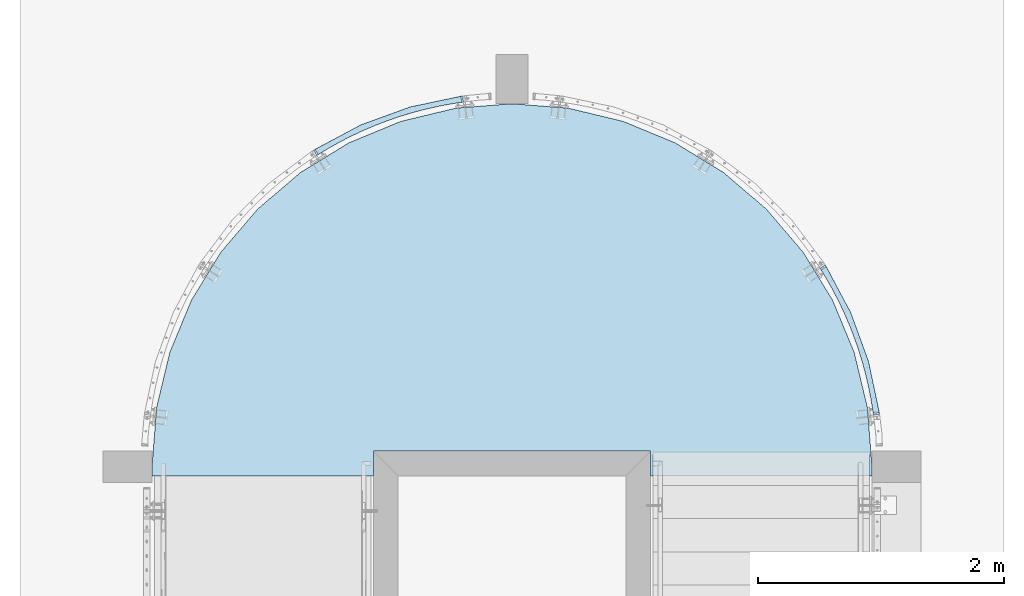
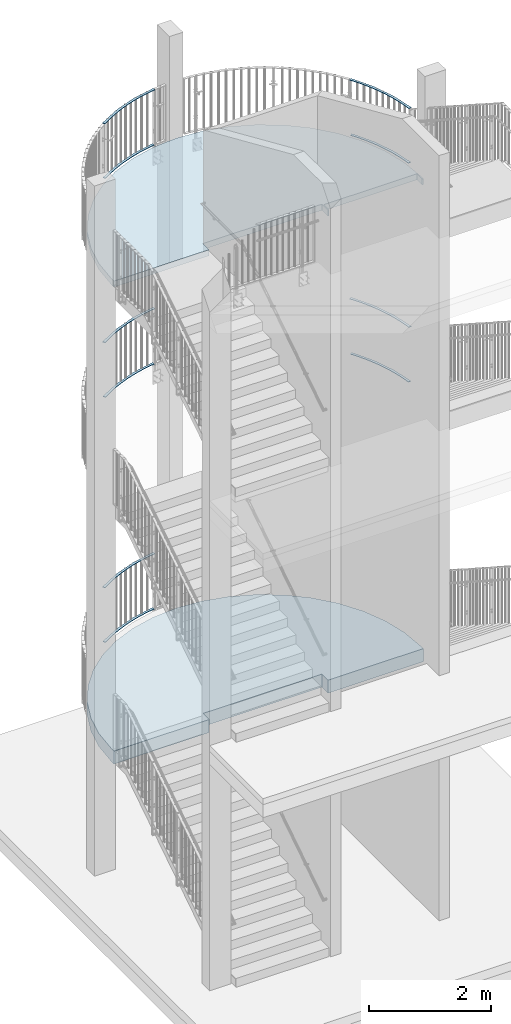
# One storey, part 105 of 296: 10 plates, 2 slabs, 27 openings.
"""IFC2X3 building model written with IfcOpenShell, lengths in millimetres."""

from ifc_helpers import new_model, entity, si_unit, converted_unit, point, frame, frame_2d, origin, origin_with_axes, origin_2d_with_axis, place, context, project, spatial, polyline, circle_curve, line_curve, trimmed, segment, composite_curve, outline, extrude, material, layer, layer_set, element, save


model = new_model("IFC2X3")

# Units and contexts
model_context = context("Model", 3, precision=1e-09, world=origin_with_axes())
ifc_project = project(units=[si_unit("LENGTHUNIT", "METRE", prefix="MILLI"), si_unit("AREAUNIT", "SQUARE_METRE"), si_unit("VOLUMEUNIT", "CUBIC_METRE"), converted_unit("PLANEANGLEUNIT", "DEGREE", entity("IfcPlaneAngleMeasure", 0.01745329), si_unit("PLANEANGLEUNIT", "RADIAN"), dimensions=[0, 0, 0, 0, 0, 0, 0])], contexts=[model_context])

# Site, building, storey
site_placement = place(None, origin_with_axes())
site = spatial("IfcSite", under=ifc_project, at=site_placement, Name="TZD-S?d | Treppenhausgel?nder", CompositionType="ELEMENT")
building_placement = place(site_placement, origin_with_axes())
building = spatial("IfcBuilding", under=site, at=building_placement, Name="Struktur 1", CompositionType="ELEMENT")
storey_placement = place(building_placement, origin_with_axes())
storey = spatial("IfcBuildingStorey", under=building, at=storey_placement, Name="Default Storey", CompositionType="ELEMENT", Elevation=0.0)

# Plate, openings
ifc_material_1 = material(Name="S235JR")
ifc_layer_1 = layer(ifc_material_1, 10.0)
ifc_layer_set_1 = layer_set([ifc_layer_1], Name="S235JR")
plate_1_placement = place(None, frame((5863.645663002, 294.444758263, 12815.0), z_axis=(0.0, 0.0, -1.0), x_axis=(-0.133033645, 0.991111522, 0.0)))
plate_1 = element("IfcPlate", 1, at=plate_1_placement, inside=storey, material=ifc_layer_set_1, Name="Girder", ObjectType="Girder", context=model_context, shape_type="SweptSolid", body=[
    extrude(outline(polyline([(0.0, 0.0), (0.0, -2965.0), (1239.452537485, -271.492545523), (1260.468823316, -226.123707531), (660.418630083, 50.027706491), (-0.126475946, 49.999997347), (0.0, 0.0)])), origin_with_axes(), (0.0, 0.0, -1.0), 10.0),
])
opening_1_placement = place(plate_1_placement, frame((0.0, -2965.0, 0.01), z_axis=(0.0, 0.0, 1.0), x_axis=(0.418027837, 0.908434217, 0.0)))
element("IfcOpeningElement", 2, at=opening_1_placement, cuts=plate_1, ObjectType="Opening", context=model_context, shape_type="SweptSolid", body=[
    extrude(outline(composite_curve([segment(trimmed(line_curve((0.0, 0.0), (1.0, 0.0), 2965.0), [point((0.0, 0.0))], [point((2965.0, 0.0))], True, "CARTESIAN"), True, "CONTINUOUS"), segment(trimmed(circle_curve(origin_2d_with_axis(), 2965.0), [point((2965.0, 0.0))], [point((2693.507454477, 1239.452537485))], True, "CARTESIAN"), True, "CONTINUOUS"), segment(trimmed(line_curve((2693.507454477, 1239.452537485), (-0.908434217, -0.418027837), 2965.0), [point((2693.507454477, 1239.452537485))], [point((0.0, 0.0))], True, "CARTESIAN"), True, "CONTINUOUS")], self_intersect=False)), origin(), (0.0, 0.0, -1.0), 10.02),
])
opening_2_placement = place(plate_1_placement, frame((660.418630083, 50.027706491, 0.01), z_axis=(0.0, 0.0, 1.0), x_axis=(-0.999999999, -4.1949e-05, 0.0)))
element("IfcOpeningElement", 3, at=opening_2_placement, cuts=plate_1, ObjectType="Opening", context=model_context, shape_type="SweptSolid", body=[
    extrude(outline(composite_curve([segment(trimmed(line_curve((0.0, 0.0), (1.0, 0.0), 660.54510661), [point((0.0, 0.0))], [point((660.54510661, 0.0))], True, "CARTESIAN"), True, "CONTINUOUS"), segment(trimmed(circle_curve(frame_2d((660.54510661, 3015.0), x_axis=(-1.0, 0.0)), 3015.0), [point((660.54510661, 0.0))], [point((-600.038608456, 276.176585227))], False, "CARTESIAN"), True, "CONTINUOUS"), segment(trimmed(line_curve((-600.038608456, 276.176585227), (0.908399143, -0.418104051), 660.54510661), [point((-600.038608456, 276.176585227))], [point((0.0, 0.0))], True, "CARTESIAN"), True, "CONTINUOUS")], self_intersect=False)), origin(), (0.0, 0.0, -1.0), 10.02),
])

plate_2_placement = place(None, frame((5437.672875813, 1474.071160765, 11725.0), z_axis=(0.0, 0.0, 1.0), x_axis=(0.530884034, -0.847444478, 0.0)))
plate_2 = element("IfcPlate", 4, at=plate_2_placement, inside=storey, material=ifc_layer_set_1, Name="-", ObjectType="-", context=model_context, shape_type="SweptSolid", body=[
    extrude(outline(polyline([(0.0, 0.0), (0.0, -2964.999999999), (1212.136152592, -259.089626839), (1232.92316853, -213.613901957), (644.462458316, 50.081129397), (-0.379437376, 49.999976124), (0.0, 0.0)])), origin_with_axes(), (0.0, 0.0, -1.0), 10.0),
])
opening_3_placement = place(plate_2_placement, frame((0.0, -2964.999999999, 0.01), z_axis=(0.0, 0.0, 1.0), x_axis=(0.408814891, 0.912617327, 0.0)))
element("IfcOpeningElement", 5, at=opening_3_placement, cuts=plate_2, ObjectType="Opening", context=model_context, shape_type="SweptSolid", body=[
    extrude(outline(composite_curve([segment(trimmed(line_curve((0.0, 0.0), (1.0, 0.0), 2964.999999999), [point((0.0, 0.0))], [point((2964.999999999, 0.0))], True, "CARTESIAN"), True, "CONTINUOUS"), segment(trimmed(circle_curve(origin_2d_with_axis(), 2964.999999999), [point((2964.999999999, 0.0))], [point((2705.910373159, 1212.136152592))], True, "CARTESIAN"), True, "CONTINUOUS"), segment(trimmed(line_curve((2705.910373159, 1212.136152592), (-0.912617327, -0.408814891), 2964.999999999), [point((2705.910373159, 1212.136152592))], [point((0.0, 0.0))], True, "CARTESIAN"), True, "CONTINUOUS")], self_intersect=False)), origin(), (0.0, 0.0, -1.0), 10.02),
])
opening_4_placement = place(plate_2_placement, frame((644.462458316, 50.081129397, 0.01), z_axis=(0.0, 0.0, 1.0), x_axis=(-0.999999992, -0.00012585, 0.0)))
element("IfcOpeningElement", 6, at=opening_4_placement, cuts=plate_2, ObjectType="Opening", context=model_context, shape_type="SweptSolid", body=[
    extrude(outline(composite_curve([segment(trimmed(line_curve((0.0, 0.0), (1.0, 0.0), 644.841900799), [point((0.0, 0.0))], [point((644.841900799, 0.0))], True, "CARTESIAN"), True, "CONTINUOUS"), segment(trimmed(circle_curve(frame_2d((644.841900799, 3015.000000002), x_axis=(-1.0, 0.0)), 3015.000000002), [point((644.841900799, 0.0))], [point((-588.427519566, 263.769086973))], False, "CARTESIAN"), True, "CONTINUOUS"), segment(trimmed(line_curve((-588.427519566, 263.769086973), (0.912514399, -0.409044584), 644.841900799), [point((-588.427519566, 263.769086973))], [point((0.0, 0.0))], True, "CARTESIAN"), True, "CONTINUOUS")], self_intersect=False)), origin(), (0.0, 0.0, -1.0), 10.02),
])

plate_3_placement = place(None, frame((2530.555241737, 2838.645663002, 8440.0), z_axis=(0.0, 0.0, 1.0), x_axis=(-0.130526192, 0.991444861, 0.0)))
plate_3 = element("IfcPlate", 7, at=plate_3_placement, inside=storey, material=ifc_layer_set_1, Name="Girder", ObjectType="Girder", context=model_context, shape_type="SweptSolid", body=[
    extrude(outline(polyline([(0.0, 0.0), (50.000157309, 0.0), (48.357010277, 660.543062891), (-229.311353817, 1259.892808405), (-274.626885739, 1238.761828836), (-2964.990514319, -7.5), (0.0, 0.0)])), origin_with_axes(), (0.0, 0.0, 1.0), 10.0),
])
opening_5_placement = place(plate_3_placement, frame((0.0, 0.0, -0.01), z_axis=(0.0, 0.0, 1.0), x_axis=(1.0, 0.0, 0.0)))
element("IfcOpeningElement", 8, at=opening_5_placement, cuts=plate_3, ObjectType="Opening", context=model_context, shape_type="SweptSolid", body=[
    extrude(outline(composite_curve([segment(trimmed(line_curve((48.357010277, 660.543062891), (-0.420362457, 0.907356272), 660.54510661), [point((48.357010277, 660.543062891))], [point((-229.311353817, 1259.892808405))], True, "CARTESIAN"), True, "CONTINUOUS"), segment(trimmed(circle_curve(frame_2d((-2964.990514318, -7.5), x_axis=(-1.0, 0.0)), 3015.0), [point((-229.311353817, 1259.892808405))], [point((50.000157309, 0.0))], False, "CARTESIAN"), True, "CONTINUOUS"), segment(trimmed(line_curve((50.000157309, 0.0), (-0.002487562, 0.999996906), 660.54510661), [point((50.000157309, 0.0))], [point((48.357010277, 660.543062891))], True, "CARTESIAN"), True, "CONTINUOUS")], self_intersect=False)), origin(), (0.0, 0.0, 1.0), 10.02),
])
opening_6_placement = place(plate_3_placement, frame((0.0, 0.0, -0.01), z_axis=(0.0, 0.0, 1.0), x_axis=(1.0, 0.0, 0.0)))
element("IfcOpeningElement", 9, at=opening_6_placement, cuts=plate_3, ObjectType="Opening", context=model_context, shape_type="SweptSolid", body=[
    extrude(outline(composite_curve([segment(trimmed(line_curve((-2964.990514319, -7.5), (0.999996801, 0.002529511), 2965.0), [point((-2964.990514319, -7.5))], [point((0.0, 0.0))], True, "CARTESIAN"), True, "CONTINUOUS"), segment(trimmed(circle_curve(frame_2d((-2964.990514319, -7.5), x_axis=(1.0, 0.0)), 2965.0), [point((0.0, 0.0))], [point((-274.626885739, 1238.761828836))], True, "CARTESIAN"), True, "CONTINUOUS"), segment(trimmed(line_curve((-274.626885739, 1238.761828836), (-0.907373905, -0.420324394), 2965.0), [point((-274.626885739, 1238.761828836))], [point((-2964.990514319, -7.5))], True, "CARTESIAN"), True, "CONTINUOUS")], self_intersect=False)), origin(), (0.0, 0.0, 1.0), 10.02),
])

plate_4_placement = place(None, frame((2515.693473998, 2836.612532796, 7350.0), z_axis=(0.0, 0.0, -1.0), x_axis=(-0.990425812, -0.138046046, 0.0)))
plate_4 = element("IfcPlate", 10, at=plate_4_placement, inside=storey, material=ifc_layer_set_1, Name="-", ObjectType="-", context=model_context, shape_type="SweptSolid", body=[
    extrude(outline(polyline([(0.0, 0.0), (0.0, -2965.0), (1212.136152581, -259.089626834), (1232.923168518, -213.613901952), (644.462458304, 50.0811294), (-0.379437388, 49.999976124), (0.0, 0.0)])), origin_with_axes(), (0.0, 0.0, 1.0), 10.0),
])
opening_7_placement = place(plate_4_placement, frame((0.0, 0.0, -0.01), z_axis=(0.0, 0.0, 1.0), x_axis=(1.0, 0.0, 0.0)))
element("IfcOpeningElement", 11, at=opening_7_placement, cuts=plate_4, ObjectType="Opening", context=model_context, shape_type="SweptSolid", body=[
    extrude(outline(composite_curve([segment(trimmed(line_curve((0.0, -2965.0), (0.408814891, 0.912617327), 2965.0), [point((0.0, -2965.0))], [point((1212.136152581, -259.089626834))], True, "CARTESIAN"), True, "CONTINUOUS"), segment(trimmed(circle_curve(frame_2d((0.0, -2965.0), x_axis=(1.0, 0.0)), 2965.0), [point((1212.136152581, -259.089626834))], [point((0.0, 0.0))], True, "CARTESIAN"), True, "CONTINUOUS"), segment(trimmed(line_curve((0.0, 0.0), (0.0, -1.0), 2965.0), [point((0.0, 0.0))], [point((0.0, -2965.0))], True, "CARTESIAN"), True, "CONTINUOUS")], self_intersect=False)), origin(), (0.0, 0.0, 1.0), 10.02),
])
opening_8_placement = place(plate_4_placement, frame((0.0, 0.0, -0.01), z_axis=(0.0, 0.0, 1.0), x_axis=(1.0, 0.0, 0.0)))
element("IfcOpeningElement", 12, at=opening_8_placement, cuts=plate_4, ObjectType="Opening", context=model_context, shape_type="SweptSolid", body=[
    extrude(outline(composite_curve([segment(trimmed(line_curve((644.462458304, 50.0811294), (-0.999999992, -0.00012585), 644.841900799), [point((644.462458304, 50.0811294))], [point((-0.379437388, 49.999976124))], True, "CARTESIAN"), True, "CONTINUOUS"), segment(trimmed(circle_curve(frame_2d((0.0, -2965.0), x_axis=(-1.0, 0.0)), 3015.0), [point((-0.379437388, 49.999976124))], [point((1232.923168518, -213.613901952))], False, "CARTESIAN"), True, "CONTINUOUS"), segment(trimmed(line_curve((1232.923168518, -213.613901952), (-0.91256587, 0.408929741), 644.841900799), [point((1232.923168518, -213.613901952))], [point((644.462458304, 50.0811294))], True, "CARTESIAN"), True, "CONTINUOUS")], self_intersect=False)), origin(), (0.0, 0.0, 1.0), 10.02),
])

plate_5_placement = place(None, frame((5437.672875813, 1474.071160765, 7350.0), z_axis=(0.0, 0.0, 1.0), x_axis=(0.530884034, -0.847444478, 0.0)))
plate_5 = element("IfcPlate", 13, at=plate_5_placement, inside=storey, material=ifc_layer_set_1, Name="-", ObjectType="-", context=model_context, shape_type="SweptSolid", body=[
    extrude(outline(polyline([(0.0, 0.0), (0.0, -2964.999999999), (1212.136152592, -259.089626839), (1232.92316853, -213.613901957), (644.462458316, 50.081129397), (-0.379437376, 49.999976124), (0.0, 0.0)])), origin_with_axes(), (0.0, 0.0, -1.0), 10.0),
])
opening_9_placement = place(plate_5_placement, frame((0.0, -2964.999999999, 0.01), z_axis=(0.0, 0.0, 1.0), x_axis=(0.408814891, 0.912617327, 0.0)))
element("IfcOpeningElement", 14, at=opening_9_placement, cuts=plate_5, ObjectType="Opening", context=model_context, shape_type="SweptSolid", body=[
    extrude(outline(composite_curve([segment(trimmed(line_curve((0.0, 0.0), (1.0, 0.0), 2964.999999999), [point((0.0, 0.0))], [point((2964.999999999, 0.0))], True, "CARTESIAN"), True, "CONTINUOUS"), segment(trimmed(circle_curve(origin_2d_with_axis(), 2964.999999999), [point((2964.999999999, 0.0))], [point((2705.910373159, 1212.136152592))], True, "CARTESIAN"), True, "CONTINUOUS"), segment(trimmed(line_curve((2705.910373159, 1212.136152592), (-0.912617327, -0.408814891), 2964.999999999), [point((2705.910373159, 1212.136152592))], [point((0.0, 0.0))], True, "CARTESIAN"), True, "CONTINUOUS")], self_intersect=False)), origin(), (0.0, 0.0, -1.0), 10.02),
])
opening_10_placement = place(plate_5_placement, frame((644.462458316, 50.081129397, 0.01), z_axis=(0.0, 0.0, 1.0), x_axis=(-0.999999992, -0.00012585, 0.0)))
element("IfcOpeningElement", 15, at=opening_10_placement, cuts=plate_5, ObjectType="Opening", context=model_context, shape_type="SweptSolid", body=[
    extrude(outline(composite_curve([segment(trimmed(line_curve((0.0, 0.0), (1.0, 0.0), 644.841900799), [point((0.0, 0.0))], [point((644.841900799, 0.0))], True, "CARTESIAN"), True, "CONTINUOUS"), segment(trimmed(circle_curve(frame_2d((644.841900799, 3015.000000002), x_axis=(-1.0, 0.0)), 3015.000000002), [point((644.841900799, 0.0))], [point((-588.427519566, 263.769086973))], False, "CARTESIAN"), True, "CONTINUOUS"), segment(trimmed(line_curve((-588.427519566, 263.769086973), (0.912514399, -0.409044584), 644.841900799), [point((-588.427519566, 263.769086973))], [point((0.0, 0.0))], True, "CARTESIAN"), True, "CONTINUOUS")], self_intersect=False)), origin(), (0.0, 0.0, -1.0), 10.02),
])

plate_6_placement = place(None, frame((5863.645663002, 294.444758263, 8440.0), z_axis=(0.0, 0.0, -1.0), x_axis=(-0.133033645, 0.991111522, 0.0)))
plate_6 = element("IfcPlate", 16, at=plate_6_placement, inside=storey, material=ifc_layer_set_1, Name="Girder", ObjectType="Girder", context=model_context, shape_type="SweptSolid", body=[
    extrude(outline(polyline([(0.0, 0.0), (0.0, -2965.0), (1239.452537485, -271.492545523), (1260.468823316, -226.123707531), (660.418630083, 50.027706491), (-0.126475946, 49.999997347), (0.0, 0.0)])), origin_with_axes(), (0.0, 0.0, -1.0), 10.0),
])
opening_11_placement = place(plate_6_placement, frame((0.0, -2965.0, 0.01), z_axis=(0.0, 0.0, 1.0), x_axis=(0.418027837, 0.908434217, 0.0)))
element("IfcOpeningElement", 17, at=opening_11_placement, cuts=plate_6, ObjectType="Opening", context=model_context, shape_type="SweptSolid", body=[
    extrude(outline(composite_curve([segment(trimmed(line_curve((0.0, 0.0), (1.0, 0.0), 2965.0), [point((0.0, 0.0))], [point((2965.0, 0.0))], True, "CARTESIAN"), True, "CONTINUOUS"), segment(trimmed(circle_curve(origin_2d_with_axis(), 2965.0), [point((2965.0, 0.0))], [point((2693.507454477, 1239.452537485))], True, "CARTESIAN"), True, "CONTINUOUS"), segment(trimmed(line_curve((2693.507454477, 1239.452537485), (-0.908434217, -0.418027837), 2965.0), [point((2693.507454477, 1239.452537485))], [point((0.0, 0.0))], True, "CARTESIAN"), True, "CONTINUOUS")], self_intersect=False)), origin(), (0.0, 0.0, -1.0), 10.02),
])
opening_12_placement = place(plate_6_placement, frame((660.418630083, 50.027706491, 0.01), z_axis=(0.0, 0.0, 1.0), x_axis=(-0.999999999, -4.1949e-05, 0.0)))
element("IfcOpeningElement", 18, at=opening_12_placement, cuts=plate_6, ObjectType="Opening", context=model_context, shape_type="SweptSolid", body=[
    extrude(outline(composite_curve([segment(trimmed(line_curve((0.0, 0.0), (1.0, 0.0), 660.54510661), [point((0.0, 0.0))], [point((660.54510661, 0.0))], True, "CARTESIAN"), True, "CONTINUOUS"), segment(trimmed(circle_curve(frame_2d((660.54510661, 3015.0), x_axis=(-1.0, 0.0)), 3015.0), [point((660.54510661, 0.0))], [point((-600.038608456, 276.176585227))], False, "CARTESIAN"), True, "CONTINUOUS"), segment(trimmed(line_curve((-600.038608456, 276.176585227), (0.908399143, -0.418104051), 660.54510661), [point((-600.038608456, 276.176585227))], [point((0.0, 0.0))], True, "CARTESIAN"), True, "CONTINUOUS")], self_intersect=False)), origin(), (0.0, 0.0, -1.0), 10.02),
])

plate_7_placement = place(None, frame((2530.555241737, 2838.645663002, 3540.0), z_axis=(0.0, 0.0, 1.0), x_axis=(-0.130526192, 0.991444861, 0.0)))
plate_7 = element("IfcPlate", 19, at=plate_7_placement, inside=storey, material=ifc_layer_set_1, Name="Girder", ObjectType="Girder", context=model_context, shape_type="SweptSolid", body=[
    extrude(outline(polyline([(0.0, 0.0), (50.000157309, 0.0), (48.357010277, 660.543062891), (-229.311353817, 1259.892808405), (-274.626885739, 1238.761828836), (-2964.990514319, -7.5), (0.0, 0.0)])), origin_with_axes(), (0.0, 0.0, 1.0), 10.0),
])
opening_13_placement = place(plate_7_placement, frame((0.0, 0.0, -0.01), z_axis=(0.0, 0.0, 1.0), x_axis=(1.0, 0.0, 0.0)))
element("IfcOpeningElement", 20, at=opening_13_placement, cuts=plate_7, ObjectType="Opening", context=model_context, shape_type="SweptSolid", body=[
    extrude(outline(composite_curve([segment(trimmed(line_curve((48.357010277, 660.543062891), (-0.420362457, 0.907356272), 660.54510661), [point((48.357010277, 660.543062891))], [point((-229.311353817, 1259.892808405))], True, "CARTESIAN"), True, "CONTINUOUS"), segment(trimmed(circle_curve(frame_2d((-2964.990514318, -7.5), x_axis=(-1.0, 0.0)), 3015.0), [point((-229.311353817, 1259.892808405))], [point((50.000157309, 0.0))], False, "CARTESIAN"), True, "CONTINUOUS"), segment(trimmed(line_curve((50.000157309, 0.0), (-0.002487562, 0.999996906), 660.54510661), [point((50.000157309, 0.0))], [point((48.357010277, 660.543062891))], True, "CARTESIAN"), True, "CONTINUOUS")], self_intersect=False)), origin(), (0.0, 0.0, 1.0), 10.02),
])
opening_14_placement = place(plate_7_placement, frame((0.0, 0.0, -0.01), z_axis=(0.0, 0.0, 1.0), x_axis=(1.0, 0.0, 0.0)))
element("IfcOpeningElement", 21, at=opening_14_placement, cuts=plate_7, ObjectType="Opening", context=model_context, shape_type="SweptSolid", body=[
    extrude(outline(composite_curve([segment(trimmed(line_curve((-2964.990514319, -7.5), (0.999996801, 0.002529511), 2965.0), [point((-2964.990514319, -7.5))], [point((0.0, 0.0))], True, "CARTESIAN"), True, "CONTINUOUS"), segment(trimmed(circle_curve(frame_2d((-2964.990514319, -7.5), x_axis=(1.0, 0.0)), 2965.0), [point((0.0, 0.0))], [point((-274.626885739, 1238.761828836))], True, "CARTESIAN"), True, "CONTINUOUS"), segment(trimmed(line_curve((-274.626885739, 1238.761828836), (-0.907373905, -0.420324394), 2965.0), [point((-274.626885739, 1238.761828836))], [point((-2964.990514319, -7.5))], True, "CARTESIAN"), True, "CONTINUOUS")], self_intersect=False)), origin(), (0.0, 0.0, 1.0), 10.02),
])

plate_8_placement = place(None, frame((2515.693473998, 2836.612532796, 2450.0), z_axis=(0.0, 0.0, -1.0), x_axis=(-0.990425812, -0.138046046, 0.0)))
plate_8 = element("IfcPlate", 22, at=plate_8_placement, inside=storey, material=ifc_layer_set_1, Name="-", ObjectType="-", context=model_context, shape_type="SweptSolid", body=[
    extrude(outline(polyline([(0.0, 0.0), (0.0, -2965.0), (1212.136152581, -259.089626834), (1232.923168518, -213.613901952), (644.462458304, 50.0811294), (-0.379437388, 49.999976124), (0.0, 0.0)])), origin_with_axes(), (0.0, 0.0, 1.0), 10.0),
])
opening_15_placement = place(plate_8_placement, frame((0.0, 0.0, -0.01), z_axis=(0.0, 0.0, 1.0), x_axis=(1.0, 0.0, 0.0)))
element("IfcOpeningElement", 23, at=opening_15_placement, cuts=plate_8, ObjectType="Opening", context=model_context, shape_type="SweptSolid", body=[
    extrude(outline(composite_curve([segment(trimmed(line_curve((0.0, -2965.0), (0.408814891, 0.912617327), 2965.0), [point((0.0, -2965.0))], [point((1212.136152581, -259.089626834))], True, "CARTESIAN"), True, "CONTINUOUS"), segment(trimmed(circle_curve(frame_2d((0.0, -2965.0), x_axis=(1.0, 0.0)), 2965.0), [point((1212.136152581, -259.089626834))], [point((0.0, 0.0))], True, "CARTESIAN"), True, "CONTINUOUS"), segment(trimmed(line_curve((0.0, 0.0), (0.0, -1.0), 2965.0), [point((0.0, 0.0))], [point((0.0, -2965.0))], True, "CARTESIAN"), True, "CONTINUOUS")], self_intersect=False)), origin(), (0.0, 0.0, 1.0), 10.02),
])
opening_16_placement = place(plate_8_placement, frame((0.0, 0.0, -0.01), z_axis=(0.0, 0.0, 1.0), x_axis=(1.0, 0.0, 0.0)))
element("IfcOpeningElement", 24, at=opening_16_placement, cuts=plate_8, ObjectType="Opening", context=model_context, shape_type="SweptSolid", body=[
    extrude(outline(composite_curve([segment(trimmed(line_curve((644.462458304, 50.0811294), (-0.999999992, -0.00012585), 644.841900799), [point((644.462458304, 50.0811294))], [point((-0.379437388, 49.999976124))], True, "CARTESIAN"), True, "CONTINUOUS"), segment(trimmed(circle_curve(frame_2d((0.0, -2965.0), x_axis=(-1.0, 0.0)), 3015.0), [point((-0.379437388, 49.999976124))], [point((1232.923168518, -213.613901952))], False, "CARTESIAN"), True, "CONTINUOUS"), segment(trimmed(line_curve((1232.923168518, -213.613901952), (-0.91256587, 0.408929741), 644.841900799), [point((1232.923168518, -213.613901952))], [point((644.462458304, 50.0811294))], True, "CARTESIAN"), True, "CONTINUOUS")], self_intersect=False)), origin(), (0.0, 0.0, 1.0), 10.02),
])

plate_9_placement = place(None, frame((2515.693473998, 2836.612532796, 11725.0), z_axis=(0.0, 0.0, -1.0), x_axis=(-0.990425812, -0.138046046, 0.0)))
plate_9 = element("IfcPlate", 25, at=plate_9_placement, inside=storey, material=ifc_layer_set_1, Name="-", ObjectType="-", context=model_context, shape_type="SweptSolid", body=[
    extrude(outline(polyline([(0.0, 0.0), (0.0, -2965.0), (1212.136152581, -259.089626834), (1232.923168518, -213.613901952), (644.462458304, 50.0811294), (-0.379437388, 49.999976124), (0.0, 0.0)])), origin_with_axes(), (0.0, 0.0, 1.0), 10.0),
])
opening_17_placement = place(plate_9_placement, frame((0.0, 0.0, -0.01), z_axis=(0.0, 0.0, 1.0), x_axis=(1.0, 0.0, 0.0)))
element("IfcOpeningElement", 26, at=opening_17_placement, cuts=plate_9, ObjectType="Opening", context=model_context, shape_type="SweptSolid", body=[
    extrude(outline(composite_curve([segment(trimmed(line_curve((0.0, -2965.0), (0.408814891, 0.912617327), 2965.0), [point((0.0, -2965.0))], [point((1212.136152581, -259.089626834))], True, "CARTESIAN"), True, "CONTINUOUS"), segment(trimmed(circle_curve(frame_2d((0.0, -2965.0), x_axis=(1.0, 0.0)), 2965.0), [point((1212.136152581, -259.089626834))], [point((0.0, 0.0))], True, "CARTESIAN"), True, "CONTINUOUS"), segment(trimmed(line_curve((0.0, 0.0), (0.0, -1.0), 2965.0), [point((0.0, 0.0))], [point((0.0, -2965.0))], True, "CARTESIAN"), True, "CONTINUOUS")], self_intersect=False)), origin(), (0.0, 0.0, 1.0), 10.02),
])
opening_18_placement = place(plate_9_placement, frame((0.0, 0.0, -0.01), z_axis=(0.0, 0.0, 1.0), x_axis=(1.0, 0.0, 0.0)))
element("IfcOpeningElement", 27, at=opening_18_placement, cuts=plate_9, ObjectType="Opening", context=model_context, shape_type="SweptSolid", body=[
    extrude(outline(composite_curve([segment(trimmed(line_curve((644.462458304, 50.0811294), (-0.999999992, -0.00012585), 644.841900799), [point((644.462458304, 50.0811294))], [point((-0.379437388, 49.999976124))], True, "CARTESIAN"), True, "CONTINUOUS"), segment(trimmed(circle_curve(frame_2d((0.0, -2965.0), x_axis=(-1.0, 0.0)), 3015.0), [point((-0.379437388, 49.999976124))], [point((1232.923168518, -213.613901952))], False, "CARTESIAN"), True, "CONTINUOUS"), segment(trimmed(line_curve((1232.923168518, -213.613901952), (-0.91256587, 0.408929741), 644.841900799), [point((1232.923168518, -213.613901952))], [point((644.462458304, 50.0811294))], True, "CARTESIAN"), True, "CONTINUOUS")], self_intersect=False)), origin(), (0.0, 0.0, 1.0), 10.02),
])

plate_10_placement = place(None, frame((2530.555241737, 2838.645663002, 12815.0), z_axis=(0.0, 0.0, 1.0), x_axis=(-0.130526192, 0.991444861, 0.0)))
plate_10 = element("IfcPlate", 28, at=plate_10_placement, inside=storey, material=ifc_layer_set_1, Name="Girder", ObjectType="Girder", context=model_context, shape_type="SweptSolid", body=[
    extrude(outline(polyline([(0.0, 0.0), (50.000157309, 0.0), (48.357010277, 660.543062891), (-229.311353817, 1259.892808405), (-274.626885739, 1238.761828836), (-2964.990514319, -7.5), (0.0, 0.0)])), origin_with_axes(), (0.0, 0.0, 1.0), 10.0),
])
opening_19_placement = place(plate_10_placement, frame((0.0, 0.0, -0.01), z_axis=(0.0, 0.0, 1.0), x_axis=(1.0, 0.0, 0.0)))
element("IfcOpeningElement", 29, at=opening_19_placement, cuts=plate_10, ObjectType="Opening", context=model_context, shape_type="SweptSolid", body=[
    extrude(outline(composite_curve([segment(trimmed(line_curve((48.357010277, 660.543062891), (-0.420362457, 0.907356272), 660.54510661), [point((48.357010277, 660.543062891))], [point((-229.311353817, 1259.892808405))], True, "CARTESIAN"), True, "CONTINUOUS"), segment(trimmed(circle_curve(frame_2d((-2964.990514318, -7.5), x_axis=(-1.0, 0.0)), 3015.0), [point((-229.311353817, 1259.892808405))], [point((50.000157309, 0.0))], False, "CARTESIAN"), True, "CONTINUOUS"), segment(trimmed(line_curve((50.000157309, 0.0), (-0.002487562, 0.999996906), 660.54510661), [point((50.000157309, 0.0))], [point((48.357010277, 660.543062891))], True, "CARTESIAN"), True, "CONTINUOUS")], self_intersect=False)), origin(), (0.0, 0.0, 1.0), 10.02),
])
opening_20_placement = place(plate_10_placement, frame((0.0, 0.0, -0.01), z_axis=(0.0, 0.0, 1.0), x_axis=(1.0, 0.0, 0.0)))
element("IfcOpeningElement", 30, at=opening_20_placement, cuts=plate_10, ObjectType="Opening", context=model_context, shape_type="SweptSolid", body=[
    extrude(outline(composite_curve([segment(trimmed(line_curve((-2964.990514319, -7.5), (0.999996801, 0.002529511), 2965.0), [point((-2964.990514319, -7.5))], [point((0.0, 0.0))], True, "CARTESIAN"), True, "CONTINUOUS"), segment(trimmed(circle_curve(frame_2d((-2964.990514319, -7.5), x_axis=(1.0, 0.0)), 2965.0), [point((0.0, 0.0))], [point((-274.626885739, 1238.761828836))], True, "CARTESIAN"), True, "CONTINUOUS"), segment(trimmed(line_curve((-274.626885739, 1238.761828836), (-0.907373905, -0.420324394), 2965.0), [point((-274.626885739, 1238.761828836))], [point((-2964.990514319, -7.5))], True, "CARTESIAN"), True, "CONTINUOUS")], self_intersect=False)), origin(), (0.0, 0.0, 1.0), 10.02),
])

# Slab, openings
ifc_material_2 = material(Name="C25/30")
ifc_layer_2 = layer(ifc_material_2, 120.0)
ifc_layer_set_2 = layer_set([ifc_layer_2], Name="C25/30")
slab_1_placement = place(None, frame((2925.0, 1312.5, 11605.0), z_axis=(0.0, 0.0, 1.0), x_axis=(0.0, -1.0, 0.0)))
slab_1 = element("IfcSlab", 31, at=slab_1_placement, inside=storey, material=ifc_layer_set_2, Name="-", ObjectType="-", context=model_context, shape_type="SweptSolid", body=[
    extrude(outline(polyline([(-1512.5, -2925.0), (1512.5, -2925.0), (1512.5, 2925.0), (-1512.5, 2925.0), (-1512.5, -2925.0)])), origin_with_axes(), (0.0, 0.0, 1.0), 120.0),
])
opening_21_placement = place(slab_1_placement, frame((0.0, 1462.5, -0.01), z_axis=(0.0, 0.0, 1.0), x_axis=(1.0, 0.0, 0.0)))
element("IfcOpeningElement", 32, at=opening_21_placement, cuts=slab_1, ObjectType="Opening", context=model_context, shape_type="SweptSolid", body=[
    extrude(outline(composite_curve([segment(trimmed(line_curve((-1512.5, -4387.5), (1.0, 0.0), 2925.000000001), [point((-1512.5, -4387.5))], [point((1412.500000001, -4387.5))], True, "CARTESIAN"), True, "CONTINUOUS"), segment(trimmed(circle_curve(frame_2d((1412.500000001, -1462.499999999), x_axis=(-1.0, 0.0)), 2925.000000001), [point((1412.500000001, -4387.5))], [point((-1512.5, -1462.499999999))], False, "CARTESIAN"), True, "CONTINUOUS"), segment(trimmed(line_curve((-1512.5, -1462.499999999), (0.0, -1.0), 2925.000000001), [point((-1512.5, -1462.499999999))], [point((-1512.5, -4387.5))], True, "CARTESIAN"), True, "CONTINUOUS")], self_intersect=False)), origin(), (0.0, 0.0, 1.0), 120.02),
])
opening_22_placement = place(slab_1_placement, frame((0.0, 1462.5, -0.01), z_axis=(0.0, 0.0, 1.0), x_axis=(1.0, 0.0, 0.0)))
element("IfcOpeningElement", 33, at=opening_22_placement, cuts=slab_1, ObjectType="Opening", context=model_context, shape_type="SweptSolid", body=[
    extrude(outline(composite_curve([segment(trimmed(line_curve((-1512.5, 1462.5), (0.0, -1.0), 2925.000000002), [point((-1512.5, 1462.5))], [point((-1512.5, -1462.500000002))], True, "CARTESIAN"), True, "CONTINUOUS"), segment(trimmed(circle_curve(frame_2d((1412.500000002, -1462.500000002), x_axis=(-1.0, 0.0)), 2925.000000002), [point((-1512.5, -1462.500000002))], [point((1412.500000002, 1462.5))], False, "CARTESIAN"), True, "CONTINUOUS"), segment(trimmed(line_curve((1412.500000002, 1462.5), (-1.0, 0.0), 2925.000000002), [point((1412.500000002, 1462.5))], [point((-1512.5, 1462.5))], True, "CARTESIAN"), True, "CONTINUOUS")], self_intersect=False)), origin(), (0.0, 0.0, 1.0), 120.02),
])
opening_23_placement = place(slab_1_placement, frame((0.0, 0.0, -0.1), z_axis=(0.0, 0.0, 1.0), x_axis=(1.0, 0.0, 0.0)))
element("IfcOpeningElement", 34, at=opening_23_placement, cuts=slab_1, ObjectType="Opening", context=model_context, shape_type="SweptSolid", body=[
    extrude(outline(polyline([(1312.499, -1125.001), (1748.295882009, -1125.001), (1748.295882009, 1125.001), (1312.499, 1125.001), (1312.499, -1125.001)])), origin(), (0.0, 0.0, 1.0), 120.2),
])
opening_24_placement = place(slab_1_placement, frame((0.0, 0.0, -0.1), z_axis=(0.0, 0.0, 1.0), x_axis=(1.0, 0.0, 0.0)))
element("IfcOpeningElement", 35, at=opening_24_placement, cuts=slab_1, ObjectType="Opening", context=model_context, shape_type="SweptSolid", body=[
    extrude(outline(polyline([(1339.557159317, 1144.998), (2093.095013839, 1144.998), (2093.095013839, 2905.0), (1339.557159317, 2905.0), (1339.557159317, 1144.998)])), origin(), (0.0, 0.0, 1.0), 120.2),
])

ifc_layer_3 = layer(ifc_material_2, 260.0)
ifc_layer_set_3 = layer_set([ifc_layer_3], Name="C25/30")
slab_2_placement = place(None, frame((2925.0, 1312.5, 2070.0), z_axis=(0.0, 0.0, 1.0), x_axis=(0.0, -1.0, 0.0)))
slab_2 = element("IfcSlab", 36, at=slab_2_placement, inside=storey, material=ifc_layer_set_3, Name="-", ObjectType="-", context=model_context, shape_type="SweptSolid", body=[
    extrude(outline(polyline([(-1512.5, -2925.0), (1512.5, -2925.0), (1512.5, 2925.0), (-1512.5, 2925.0), (-1512.5, -2925.0)])), origin_with_axes(), (0.0, 0.0, 1.0), 260.0),
])
opening_25_placement = place(slab_2_placement, frame((0.0, 1462.5, -0.01), z_axis=(0.0, 0.0, 1.0), x_axis=(1.0, 0.0, 0.0)))
element("IfcOpeningElement", 37, at=opening_25_placement, cuts=slab_2, ObjectType="Opening", context=model_context, shape_type="SweptSolid", body=[
    extrude(outline(composite_curve([segment(trimmed(line_curve((-1512.5, -4387.5), (1.0, 0.0), 2925.000000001), [point((-1512.5, -4387.5))], [point((1412.500000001, -4387.5))], True, "CARTESIAN"), True, "CONTINUOUS"), segment(trimmed(circle_curve(frame_2d((1412.500000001, -1462.499999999), x_axis=(-1.0, 0.0)), 2925.000000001), [point((1412.500000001, -4387.5))], [point((-1512.5, -1462.499999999))], False, "CARTESIAN"), True, "CONTINUOUS"), segment(trimmed(line_curve((-1512.5, -1462.499999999), (0.0, -1.0), 2925.000000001), [point((-1512.5, -1462.499999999))], [point((-1512.5, -4387.5))], True, "CARTESIAN"), True, "CONTINUOUS")], self_intersect=False)), origin(), (0.0, 0.0, 1.0), 260.02),
])
opening_26_placement = place(slab_2_placement, frame((0.0, 1462.5, -0.01), z_axis=(0.0, 0.0, 1.0), x_axis=(1.0, 0.0, 0.0)))
element("IfcOpeningElement", 38, at=opening_26_placement, cuts=slab_2, ObjectType="Opening", context=model_context, shape_type="SweptSolid", body=[
    extrude(outline(composite_curve([segment(trimmed(line_curve((-1512.5, 1462.5), (0.0, -1.0), 2925.000000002), [point((-1512.5, 1462.5))], [point((-1512.5, -1462.500000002))], True, "CARTESIAN"), True, "CONTINUOUS"), segment(trimmed(circle_curve(frame_2d((1412.500000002, -1462.500000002), x_axis=(-1.0, 0.0)), 2925.000000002), [point((-1512.5, -1462.500000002))], [point((1412.500000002, 1462.5))], False, "CARTESIAN"), True, "CONTINUOUS"), segment(trimmed(line_curve((1412.500000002, 1462.5), (-1.0, 0.0), 2925.000000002), [point((1412.500000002, 1462.5))], [point((-1512.5, 1462.5))], True, "CARTESIAN"), True, "CONTINUOUS")], self_intersect=False)), origin(), (0.0, 0.0, 1.0), 260.02),
])
opening_27_placement = place(slab_2_placement, frame((0.0, 0.0, -0.1), z_axis=(0.0, 0.0, 1.0), x_axis=(1.0, 0.0, 0.0)))
element("IfcOpeningElement", 39, at=opening_27_placement, cuts=slab_2, ObjectType="Opening", context=model_context, shape_type="SweptSolid", body=[
    extrude(outline(polyline([(1312.499, -1125.001), (1748.295882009, -1125.001), (1748.295882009, 1125.001), (1312.499, 1125.001), (1312.499, -1125.001)])), origin(), (0.0, 0.0, 1.0), 260.2),
])

save(model, "model.ifc")
